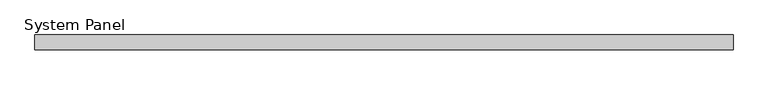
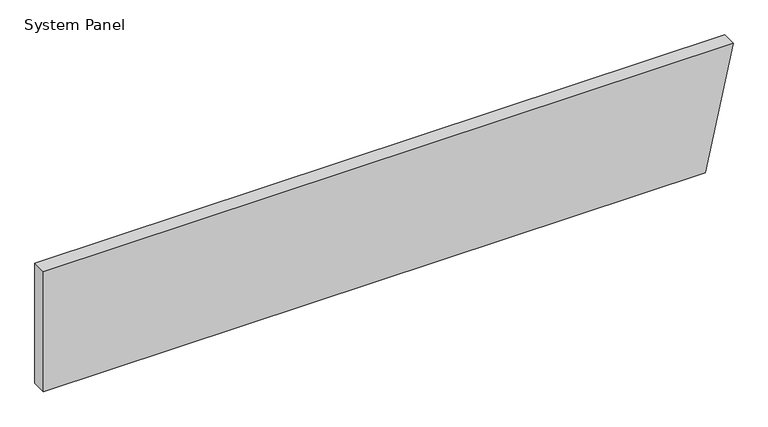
"""IFC4 building model written with IfcOpenShell, lengths in millimetres: plate geometry, System Panel : InsulWall_140mm_Plain_Surfmist."""

from ifc_helpers import new_model, si_unit, frame, origin, place, context, project, spatial, polyline, outline, extrude, source, transform, mapped, element, save


def system_panel_6ff178a2(model_context):
    return source(origin(), model_context, "Body", "SweptSolid", [
        extrude(outline(polyline([(0.0, -3255.8716619), (0.0, 2995.0), (1200.0, 3255.8716619), (1200.0, -3255.8716619), (0.0, -3255.8716619)])), frame((0.0, -140.0, 0.0), z_axis=(0.0, 1.0, 0.0), x_axis=(0.0, 0.0, 1.0)), (0.0, 0.0, 1.0), 140.0),
    ])


if __name__ == "__main__":
    model = new_model("IFC4")
    model_context = context("Model", 3, world=origin())
    ifc_project = project(units=[si_unit("LENGTHUNIT", "METRE", prefix="MILLI")], contexts=[model_context])
    site = spatial("IfcSite", under=ifc_project)
    building = spatial("IfcBuilding", under=site)
    placement = place(None, origin())
    system_panel_shape = system_panel_6ff178a2(model_context)
    element("IfcPlate", 1, ObjectType="System Panel : InsulWall_140mm_Plain_Surfmist", at=placement, inside=building, context=model_context, shape_type="MappedRepresentation", body=[
        mapped(system_panel_shape, transform((0.0, 0.0, 0.0), x_axis=(1.0, 0.0, 0.0), y_axis=(0.0, 1.0, 0.0), z_axis=(0.0, 0.0, 1.0))),
    ])
    save(model, "model.ifc")
